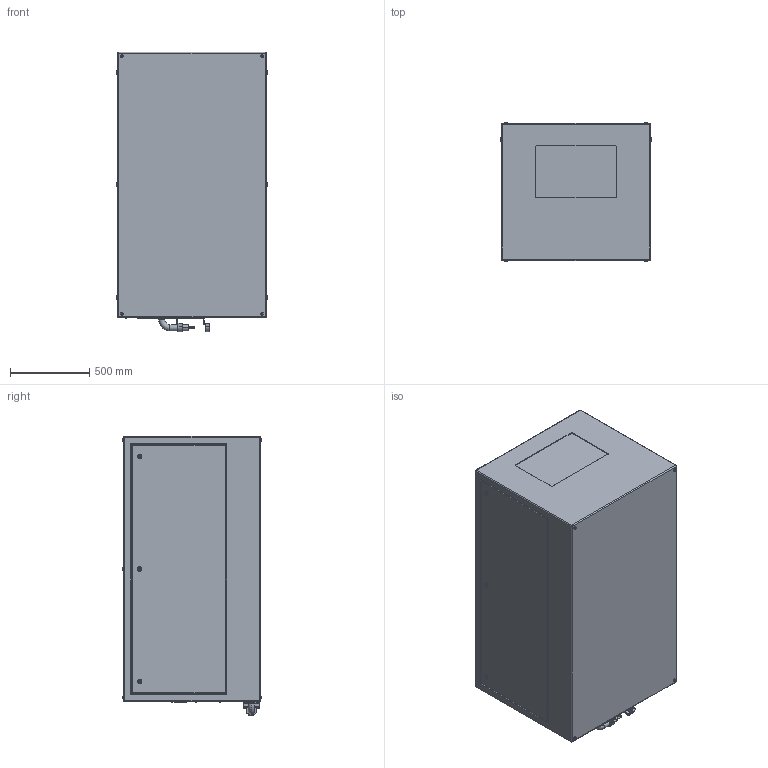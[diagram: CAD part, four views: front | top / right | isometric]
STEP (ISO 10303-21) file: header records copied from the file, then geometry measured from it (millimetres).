
FILE_DESCRIPTION (( 'STEP AP214' ), '1' );
FILE_NAME ('Oasis 59.522.L R02.STEP', '2022-09-12T23:49:02', ( '' ), ( '' ), 'SwSTEP 2.0', 'SolidWorks 2020', '' );
FILE_SCHEMA (( 'AUTOMOTIVE_DESIGN' ));
Length unit declared in the file: inch
Products named in the file (1): Oasis 59.522.L R02
Bounding box: 952.5 x 880.87 x 1765.3 mm (x, y, z)
Volume: 1359418808.8 mm3; surface area: 8255141.9 mm2
Topology: 3 solids, 9 shells, 510 faces, 1165 edges, 738 vertices
Faces by surface type: plane 279, cylinder 177, torus 46, bspline 8
Entity records: 19431 total; most frequent: CARTESIAN_POINT 2926, DIRECTION 2539, ORIENTED_EDGE 2314, EDGE_CURVE 1157, AXIS2_PLACEMENT_3D 911, VERTEX_POINT 738, VECTOR 717, LINE 717
